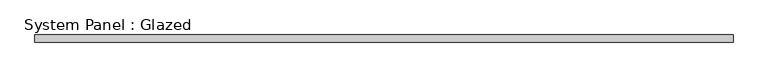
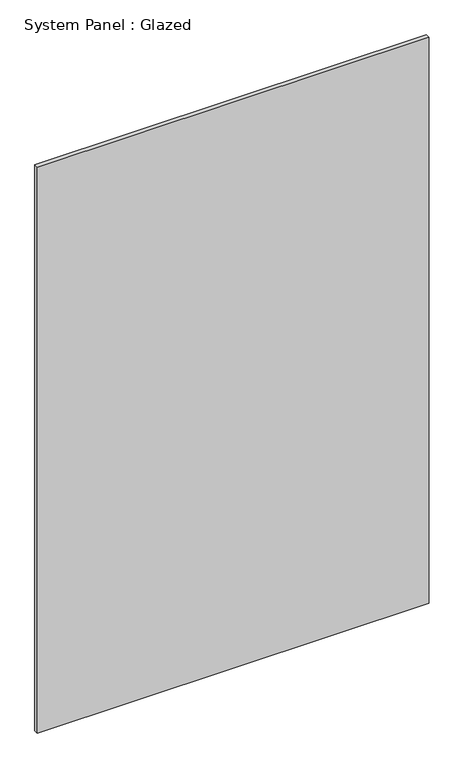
"""IFC4 building model written with IfcOpenShell, lengths in millimetres: plate geometry, System Panel : Glazed."""

import ifcopenshell
import ifcopenshell.guid

model = None  # the IFC model being written
_history = None  # IfcOwnerHistory: only IFC2X3 demands one
_inside = {}  # id of a spatial element -> (the spatial element, [elements in it])
_under = {}  # id of a project, library or spatial element -> (it, [spatial elements below it])
_declared = {}  # id of a project -> (the project, [libraries it declares])
_typed = {}  # id of a type object -> (the type object, [elements of that type])
_made_of = {}  # id of a material, layer set ... -> (it, [elements and type objects made of it])


def new_model(schema):
    """Start an empty IFC model of exactly this schema.

    Asked for "IFC4X3", IfcOpenShell would pick the latest addendum, in which some entities
    have other attributes; the version numbers below select the first issue.
    IFC2X3 requires an IfcOwnerHistory on every rooted entity: one is made here for all.
    """
    global model, _history
    if schema == "IFC4X3":
        model = ifcopenshell.file(schema_version=(4, 3, 0, 0))
    else:
        model = ifcopenshell.file(schema=schema)
    _inside.clear()
    _under.clear()
    _declared.clear()
    _typed.clear()
    _made_of.clear()
    _history = None
    if model.schema == "IFC2X3":
        org = make("IfcOrganization", Name="unknown")
        user = make(
            "IfcPersonAndOrganization",
            ThePerson=make("IfcPerson", FamilyName="unknown"),
            TheOrganization=org,
        )
        app = make(
            "IfcApplication",
            ApplicationDeveloper=org,
            Version="unknown",
            ApplicationFullName="unknown",
            ApplicationIdentifier="unknown",
        )
        _history = make(
            "IfcOwnerHistory",
            OwningUser=user,
            OwningApplication=app,
            ChangeAction="ADDED",
            CreationDate=0,
        )
    return model


def make(cls, **values):
    """One entity of the class cls with the attributes given. An attribute that is None is left unset."""
    return model.create_entity(
        cls, **{name: value for name, value in values.items() if value is not None}
    )


def rooted(cls, **values):
    """An entity with a GlobalId (a new one), such as an element, a storey or a relation."""
    return make(cls, GlobalId=ifcopenshell.guid.new(), OwnerHistory=_history, **values)


def si_unit(unit_type, name, prefix=None):
    """IfcSIUnit, for example si_unit("LENGTHUNIT", "METRE", prefix="MILLI")."""
    return make("IfcSIUnit", UnitType=unit_type, Prefix=prefix, Name=name)


def assignment(units):
    """IfcUnitAssignment: the units of a project."""
    return None if units is None else make("IfcUnitAssignment", Units=units)


def point(xyz):
    """IfcCartesianPoint."""
    return None if xyz is None else make("IfcCartesianPoint", Coordinates=xyz)


def direction(xyz):
    """IfcDirection."""
    return None if xyz is None else make("IfcDirection", DirectionRatios=xyz)


def frame(location, z_axis=None, x_axis=None):
    """IfcAxis2Placement3D, a coordinate frame: its origin and axes. An axis left out is left unset."""
    return make(
        "IfcAxis2Placement3D",
        Location=point(location),
        Axis=direction(z_axis),
        RefDirection=direction(x_axis),
    )


def origin():
    """The frame at (0, 0, 0) with its axes left unset."""
    return frame((0.0, 0.0, 0.0))


def origin_with_axes():
    """The frame at (0, 0, 0) with the z axis (0, 0, 1) and the x axis (1, 0, 0) written out."""
    return frame((0.0, 0.0, 0.0), z_axis=(0.0, 0.0, 1.0), x_axis=(1.0, 0.0, 0.0))


def place(relative_to, where):
    """IfcLocalPlacement: puts the frame where relative to a parent placement (None: the world)."""
    return make(
        "IfcLocalPlacement", PlacementRelTo=relative_to, RelativePlacement=where
    )


def context(
    kind, dimensions, precision=None, world=None, true_north=None, identifier=None
):
    """IfcGeometricRepresentationContext, for example the 3D "Model" context."""
    return make(
        "IfcGeometricRepresentationContext",
        ContextIdentifier=identifier,
        ContextType=kind,
        CoordinateSpaceDimension=dimensions,
        Precision=precision,
        WorldCoordinateSystem=world,
        TrueNorth=true_north,
    )


def project(units=None, contexts=None):
    """IfcProject with its units and contexts."""
    return rooted(
        "IfcProject",
        Name="project",
        RepresentationContexts=contexts,
        UnitsInContext=assignment(units),
    )


def spatial(cls, under=None, at=None, **own):
    """A site, building, storey or space (cls), placed at a placement, below another one or the project."""
    s = rooted(cls, ObjectPlacement=at, **own)
    if under is not None:
        _under.setdefault(under.id(), (under, []))[1].append(s)
    return s


def polyline(points):
    """IfcPolyline through the points."""
    return make("IfcPolyline", Points=[point(p) for p in points])


def outline(outer, holes=None, kind="AREA"):
    """IfcArbitraryClosedProfileDef: a profile drawn as a closed curve; with holes, ...WithVoids."""
    if holes is None:
        return make("IfcArbitraryClosedProfileDef", ProfileType=kind, OuterCurve=outer)
    return make(
        "IfcArbitraryProfileDefWithVoids",
        ProfileType=kind,
        OuterCurve=outer,
        InnerCurves=holes,
    )


def extrude(swept, where, along, depth):
    """IfcExtrudedAreaSolid: the profile swept, set in the frame where, extruded along a direction by depth."""
    return make(
        "IfcExtrudedAreaSolid",
        SweptArea=swept,
        Position=where,
        ExtrudedDirection=direction(along),
        Depth=depth,
    )


def shape(context_of_items, identifier, shape_type, items):
    """IfcShapeRepresentation: the items that make up one representation, for example the "Body"."""
    return make(
        "IfcShapeRepresentation",
        ContextOfItems=context_of_items,
        RepresentationIdentifier=identifier,
        RepresentationType=shape_type,
        Items=items,
    )


def source(mapping_origin, context_of_items, identifier, shape_type, items):
    """IfcRepresentationMap: a shape defined once, which mapped items show again and again."""
    return make(
        "IfcRepresentationMap",
        MappingOrigin=mapping_origin,
        MappedRepresentation=shape(context_of_items, identifier, shape_type, items),
    )


def transform(
    local_origin,
    x_axis=None,
    y_axis=None,
    z_axis=None,
    scale=None,
    scale2=None,
    scale3=None,
    uniform=True,
):
    """IfcCartesianTransformationOperator3D, or its non-uniform kind. x_axis, y_axis, z_axis: its Axis1, 2, 3."""
    if uniform:
        return make(
            "IfcCartesianTransformationOperator3D",
            Axis1=direction(x_axis),
            Axis2=direction(y_axis),
            LocalOrigin=point(local_origin),
            Scale=scale,
            Axis3=direction(z_axis),
        )
    return make(
        "IfcCartesianTransformationOperator3DnonUniform",
        Axis1=direction(x_axis),
        Axis2=direction(y_axis),
        LocalOrigin=point(local_origin),
        Scale=scale,
        Axis3=direction(z_axis),
        Scale2=scale2,
        Scale3=scale3,
    )


def mapped(mapping_source, mapping_target):
    """IfcMappedItem: shows the shape of a source again, moved by a transform."""
    return make(
        "IfcMappedItem", MappingSource=mapping_source, MappingTarget=mapping_target
    )


def made_of(thing, what):
    """Note that an element or type object is made of a material, layer set ...; save() writes the relation."""
    if what is not None:
        _made_of.setdefault(what.id(), (what, []))[1].append(thing)
    return thing


def element(
    cls,
    number,
    at=None,
    inside=None,
    cuts=None,
    type_object=None,
    material=None,
    context=None,
    identifier="Body",
    shape_type=None,
    held_by="IfcProductDefinitionShape",
    body=None,
    shapes=None,
    **own,
):
    """One element of the class cls, such as IfcWall. Its Tag is "e" and its number.

    at: its placement. inside: the storey or other place that contains it. cuts: it is an
    opening in that element (IfcRelVoidsElement). A single representation is given by context,
    identifier, shape_type and body (its items); several are given by shapes. held_by: the class
    of the entity that holds the representations. save() writes the other relations.
    """
    e = rooted(cls, Tag="e%d" % number, ObjectPlacement=at, **own)
    if body is not None:
        shapes = [shape(context, identifier, shape_type, body)]
    if shapes is not None:
        e.Representation = make(held_by, Representations=shapes)
    if inside is not None:
        _inside.setdefault(inside.id(), (inside, []))[1].append(e)
    if cuts is not None:
        rooted(
            "IfcRelVoidsElement", RelatingBuildingElement=cuts, RelatedOpeningElement=e
        )
    if type_object is not None:
        _typed.setdefault(type_object.id(), (type_object, []))[1].append(e)
    return made_of(e, material)


def aggregate(whole, parts):
    """IfcRelAggregates: a whole, such as a stair, and the parts it consists of."""
    return rooted("IfcRelAggregates", RelatingObject=whole, RelatedObjects=parts)


def save(model, path):
    """Write the relations noted so far, then the file.

    IfcRelAggregates (storeys below a building ...), IfcRelContainedInSpatialStructure (elements
    in a storey), IfcRelDefinesByType, IfcRelAssociatesMaterial and IfcRelDeclares: one each for
    every whole, place, type object, material and project.
    """
    for whole, parts in _under.values():
        aggregate(whole, parts)
    for where, things in _inside.values():
        rooted(
            "IfcRelContainedInSpatialStructure",
            RelatedElements=things,
            RelatingStructure=where,
        )
    for kind, things in _typed.values():
        rooted("IfcRelDefinesByType", RelatedObjects=things, RelatingType=kind)
    for what, things in _made_of.values():
        rooted("IfcRelAssociatesMaterial", RelatedObjects=things, RelatingMaterial=what)
    for by, libraries in _declared.values():
        rooted("IfcRelDeclares", RelatingContext=by, RelatedDefinitions=libraries)
    model.write(path)


def system_panel_glazed_b79bd3cf(model_context):
    return source(origin(), model_context, "Body", "SweptSolid", [
        extrude(outline(polyline([(1176.8760751, 19.05), (-1176.8760751, 19.05), (-1176.8760751, 44.45), (1176.8760751, 44.45), (1176.8760751, 19.05)])), origin_with_axes(), (0.0, 0.0, 1.0), 3594.1),
    ])


if __name__ == "__main__":
    model = new_model("IFC4")
    model_context = context("Model", 3, world=origin())
    ifc_project = project(units=[si_unit("LENGTHUNIT", "METRE", prefix="MILLI")], contexts=[model_context])
    site = spatial("IfcSite", under=ifc_project)
    building = spatial("IfcBuilding", under=site)
    placement = place(None, origin())
    system_panel_glazed_shape = system_panel_glazed_b79bd3cf(model_context)
    element("IfcPlate", 1, ObjectType="System Panel : Glazed", at=placement, inside=building, context=model_context, shape_type="MappedRepresentation", body=[
        mapped(system_panel_glazed_shape, transform((0.0, 0.0, 0.0), x_axis=(1.0, 0.0, 0.0), y_axis=(0.0, 1.0, 0.0), z_axis=(0.0, 0.0, 1.0))),
    ])
    save(model, "model.ifc")
